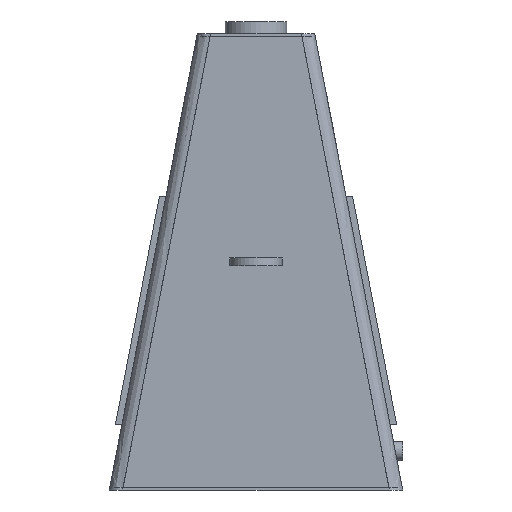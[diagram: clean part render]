
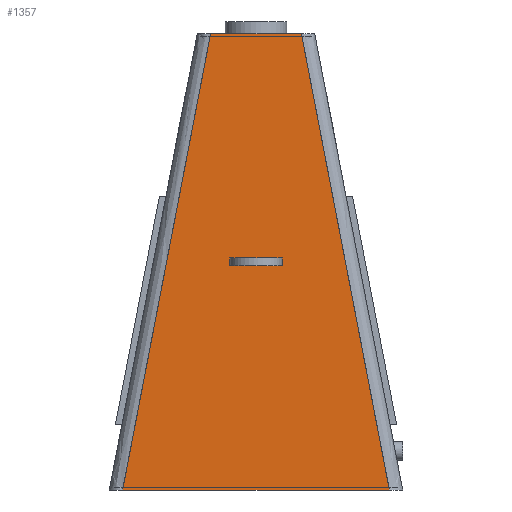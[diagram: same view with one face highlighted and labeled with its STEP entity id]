
A CAD part, left-side view. The second image highlights one B-rep face of the part: STEP entity #1357.
In plain terms, the highlighted free-form (B-spline) face has degree [1, 1] with [2, 2] control points.
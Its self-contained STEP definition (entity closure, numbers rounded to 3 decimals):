
#385 = VERTEX_POINT('',#386);
#386 = CARTESIAN_POINT('',(-750.,-204.631,0.));
#415 = EDGE_CURVE('',#416,#385,#418,.T.);
#416 = VERTEX_POINT('',#417);
#417 = CARTESIAN_POINT('',(-750.,204.631,0.));
#418 = LINE('',#419,#420);
#419 = CARTESIAN_POINT('',(-750.,225.,0.));
#420 = VECTOR('',#421,1.);
#421 = DIRECTION('',(0.,-1.,0.));
#850 = VERTEX_POINT('',#851);
#851 = CARTESIAN_POINT('',(-750.,-69.631,700.));
#880 = EDGE_CURVE('',#881,#850,#883,.T.);
#881 = VERTEX_POINT('',#882);
#882 = CARTESIAN_POINT('',(-750.,69.631,700.));
#883 = LINE('',#884,#885);
#884 = CARTESIAN_POINT('',(-750.,90.,700.));
#885 = VECTOR('',#886,1.);
#886 = DIRECTION('',(0.,-1.,0.));
#1236 = EDGE_CURVE('',#385,#850,#1237,.T.);
#1237 = B_SPLINE_CURVE_WITH_KNOTS('',10,(#1238,#1239,#1240,#1241,#1242,
    #1243,#1244,#1245,#1246,#1247,#1248,#1249,#1250,#1251,#1252,#1253,
    #1254,#1255,#1256,#1257,#1258,#1259,#1260,#1261,#1262,#1263,#1264,
    #1265,#1266),.UNSPECIFIED.,.F.,.F.,(11,9,9,11),(-43.629,
    0.,716.756,760.386),.UNSPECIFIED.);
#1238 = CARTESIAN_POINT('',(-750.,-213.624,-46.627));
#1239 = CARTESIAN_POINT('',(-750.,-212.798,
    -42.343));
#1240 = CARTESIAN_POINT('',(-750.,-211.971,
    -38.059));
#1241 = CARTESIAN_POINT('',(-750.,-211.145,
    -33.775));
#1242 = CARTESIAN_POINT('',(-750.,-210.319,
    -29.491));
#1243 = CARTESIAN_POINT('',(-750.,-209.493,
    -25.207));
#1244 = CARTESIAN_POINT('',(-750.,-208.667,
    -20.923));
#1245 = CARTESIAN_POINT('',(-750.,-207.84,
    -16.639));
#1246 = CARTESIAN_POINT('',(-750.,-207.014,
    -12.355));
#1247 = CARTESIAN_POINT('',(-750.,-206.188,
    -8.071));
#1248 = CARTESIAN_POINT('',(-750.,-191.789,66.591));
#1249 = CARTESIAN_POINT('',(-750.,-178.216,
    136.97));
#1250 = CARTESIAN_POINT('',(-750.,-164.643,
    207.349));
#1251 = CARTESIAN_POINT('',(-750.,-151.07,
    277.728));
#1252 = CARTESIAN_POINT('',(-750.,-137.497,
    348.106));
#1253 = CARTESIAN_POINT('',(-750.,-123.924,
    418.485));
#1254 = CARTESIAN_POINT('',(-750.,-110.351,
    488.864));
#1255 = CARTESIAN_POINT('',(-750.,-96.778,
    559.243));
#1256 = CARTESIAN_POINT('',(-750.,-83.204,629.621));
#1257 = CARTESIAN_POINT('',(-750.,-68.805,
    704.284));
#1258 = CARTESIAN_POINT('',(-750.,-67.979,
    708.568));
#1259 = CARTESIAN_POINT('',(-750.,-67.153,
    712.852));
#1260 = CARTESIAN_POINT('',(-750.,-66.327,
    717.136));
#1261 = CARTESIAN_POINT('',(-750.,-65.5,
    721.42));
#1262 = CARTESIAN_POINT('',(-750.,-64.674,
    725.704));
#1263 = CARTESIAN_POINT('',(-750.,-63.848,
    729.988));
#1264 = CARTESIAN_POINT('',(-750.,-63.022,
    734.272));
#1265 = CARTESIAN_POINT('',(-750.,-62.196,
    738.556));
#1266 = CARTESIAN_POINT('',(-750.,-61.369,
    742.84));
#1357 = ADVANCED_FACE('',(#1358,#1395),#1441,.T.);
#1358 = FACE_BOUND('',#1359,.T.);
#1359 = EDGE_LOOP('',(#1360,#1361,#1362,#1363));
#1360 = ORIENTED_EDGE('',*,*,#415,.T.);
#1361 = ORIENTED_EDGE('',*,*,#1236,.T.);
#1362 = ORIENTED_EDGE('',*,*,#880,.F.);
#1363 = ORIENTED_EDGE('',*,*,#1364,.F.);
#1364 = EDGE_CURVE('',#416,#881,#1365,.T.);
#1365 = B_SPLINE_CURVE_WITH_KNOTS('',10,(#1366,#1367,#1368,#1369,#1370,
    #1371,#1372,#1373,#1374,#1375,#1376,#1377,#1378,#1379,#1380,#1381,
    #1382,#1383,#1384,#1385,#1386,#1387,#1388,#1389,#1390,#1391,#1392,
    #1393,#1394),.UNSPECIFIED.,.F.,.F.,(11,9,9,11),(-43.629,
    0.,716.756,760.386),.UNSPECIFIED.);
#1366 = CARTESIAN_POINT('',(-750.,213.624,-46.627));
#1367 = CARTESIAN_POINT('',(-750.,212.798,
    -42.343));
#1368 = CARTESIAN_POINT('',(-750.,211.971,
    -38.059));
#1369 = CARTESIAN_POINT('',(-750.,211.145,
    -33.775));
#1370 = CARTESIAN_POINT('',(-750.,210.319,
    -29.491));
#1371 = CARTESIAN_POINT('',(-750.,209.493,
    -25.207));
#1372 = CARTESIAN_POINT('',(-750.,208.667,
    -20.923));
#1373 = CARTESIAN_POINT('',(-750.,207.84,
    -16.639));
#1374 = CARTESIAN_POINT('',(-750.,207.014,
    -12.355));
#1375 = CARTESIAN_POINT('',(-750.,206.188,
    -8.071));
#1376 = CARTESIAN_POINT('',(-750.,191.789,66.591));
#1377 = CARTESIAN_POINT('',(-750.,178.216,
    136.97));
#1378 = CARTESIAN_POINT('',(-750.,164.643,
    207.349));
#1379 = CARTESIAN_POINT('',(-750.,151.07,
    277.728));
#1380 = CARTESIAN_POINT('',(-750.,137.497,
    348.106));
#1381 = CARTESIAN_POINT('',(-750.,123.924,
    418.485));
#1382 = CARTESIAN_POINT('',(-750.,110.351,488.864));
#1383 = CARTESIAN_POINT('',(-750.,96.778,
    559.243));
#1384 = CARTESIAN_POINT('',(-750.,83.204,629.621));
#1385 = CARTESIAN_POINT('',(-750.,68.805,704.284));
#1386 = CARTESIAN_POINT('',(-750.,67.979,708.568));
#1387 = CARTESIAN_POINT('',(-750.,67.153,712.852));
#1388 = CARTESIAN_POINT('',(-750.,66.327,717.136));
#1389 = CARTESIAN_POINT('',(-750.,65.5,721.42));
#1390 = CARTESIAN_POINT('',(-750.,64.674,725.704));
#1391 = CARTESIAN_POINT('',(-750.,63.848,729.988));
#1392 = CARTESIAN_POINT('',(-750.,63.022,734.272));
#1393 = CARTESIAN_POINT('',(-750.,62.196,738.556));
#1394 = CARTESIAN_POINT('',(-750.,61.369,
    742.84));
#1395 = FACE_BOUND('',#1396,.T.);
#1396 = EDGE_LOOP('',(#1397,#1406,#1421,#1428));
#1397 = ORIENTED_EDGE('',*,*,#1398,.T.);
#1398 = EDGE_CURVE('',#1399,#1401,#1403,.T.);
#1399 = VERTEX_POINT('',#1400);
#1400 = CARTESIAN_POINT('',(-750.,-25.,344.));
#1401 = VERTEX_POINT('',#1402);
#1402 = CARTESIAN_POINT('',(-750.,25.,344.));
#1403 = B_SPLINE_CURVE_WITH_KNOTS('',1,(#1404,#1405),.UNSPECIFIED.,.F.,
  .F.,(2,2),(0.,1.),.PIECEWISE_BEZIER_KNOTS.);
#1404 = CARTESIAN_POINT('',(-750.,-25.,344.));
#1405 = CARTESIAN_POINT('',(-750.,25.,344.));
#1406 = ORIENTED_EDGE('',*,*,#1407,.T.);
#1407 = EDGE_CURVE('',#1401,#1408,#1410,.T.);
#1408 = VERTEX_POINT('',#1409);
#1409 = CARTESIAN_POINT('',(-750.,25.,356.));
#1410 = B_SPLINE_CURVE_WITH_KNOTS('',5,(#1411,#1412,#1413,#1414,#1415,
    #1416,#1417,#1418,#1419,#1420),.UNSPECIFIED.,.F.,.F.,(6,4,6),(0.,
    0.534,1.),.UNSPECIFIED.);
#1411 = CARTESIAN_POINT('',(-750.,25.,344.));
#1412 = CARTESIAN_POINT('',(-750.,25.,344.082));
#1413 = CARTESIAN_POINT('',(-750.,25.,346.106));
#1414 = CARTESIAN_POINT('',(-750.,25.,347.54));
#1415 = CARTESIAN_POINT('',(-750.,25.,348.287));
#1416 = CARTESIAN_POINT('',(-750.,25.,351.028));
#1417 = CARTESIAN_POINT('',(-750.,25.,352.241));
#1418 = CARTESIAN_POINT('',(-750.,25.,353.521));
#1419 = CARTESIAN_POINT('',(-750.,25.,354.838));
#1420 = CARTESIAN_POINT('',(-750.,25.,356.));
#1421 = ORIENTED_EDGE('',*,*,#1422,.F.);
#1422 = EDGE_CURVE('',#1423,#1408,#1425,.T.);
#1423 = VERTEX_POINT('',#1424);
#1424 = CARTESIAN_POINT('',(-750.,-25.,356.));
#1425 = B_SPLINE_CURVE_WITH_KNOTS('',1,(#1426,#1427),.UNSPECIFIED.,.F.,
  .F.,(2,2),(0.,1.),.PIECEWISE_BEZIER_KNOTS.);
#1426 = CARTESIAN_POINT('',(-750.,-25.,356.));
#1427 = CARTESIAN_POINT('',(-750.,25.,356.));
#1428 = ORIENTED_EDGE('',*,*,#1429,.F.);
#1429 = EDGE_CURVE('',#1399,#1423,#1430,.T.);
#1430 = B_SPLINE_CURVE_WITH_KNOTS('',5,(#1431,#1432,#1433,#1434,#1435,
    #1436,#1437,#1438,#1439,#1440),.UNSPECIFIED.,.F.,.F.,(6,4,6),(0.,
    0.534,1.),.UNSPECIFIED.);
#1431 = CARTESIAN_POINT('',(-750.,-25.,344.));
#1432 = CARTESIAN_POINT('',(-750.,-25.,344.082));
#1433 = CARTESIAN_POINT('',(-750.,-25.,346.106));
#1434 = CARTESIAN_POINT('',(-750.,-25.,347.54));
#1435 = CARTESIAN_POINT('',(-750.,-25.,348.287));
#1436 = CARTESIAN_POINT('',(-750.,-25.,351.028));
#1437 = CARTESIAN_POINT('',(-750.,-25.,352.241));
#1438 = CARTESIAN_POINT('',(-750.,-25.,353.521));
#1439 = CARTESIAN_POINT('',(-750.,-25.,354.838));
#1440 = CARTESIAN_POINT('',(-750.,-25.,356.));
#1441 = B_SPLINE_SURFACE_WITH_KNOTS('',1,1,(
    (#1442,#1443)
    ,(#1444,#1445
    )),.UNSPECIFIED.,.F.,.F.,.F.,(2,2),(2,2),(0.,450.),(0.,1.),
  .PIECEWISE_BEZIER_KNOTS.);
#1442 = CARTESIAN_POINT('',(-750.,225.,0.));
#1443 = CARTESIAN_POINT('',(-750.,90.,700.));
#1444 = CARTESIAN_POINT('',(-750.,-225.,0.));
#1445 = CARTESIAN_POINT('',(-750.,-90.,700.));
